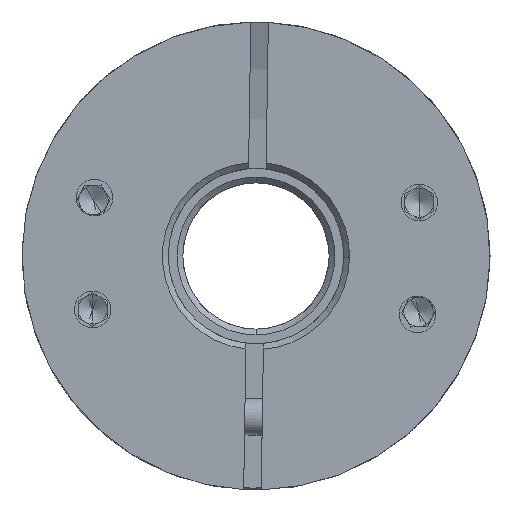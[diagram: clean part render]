
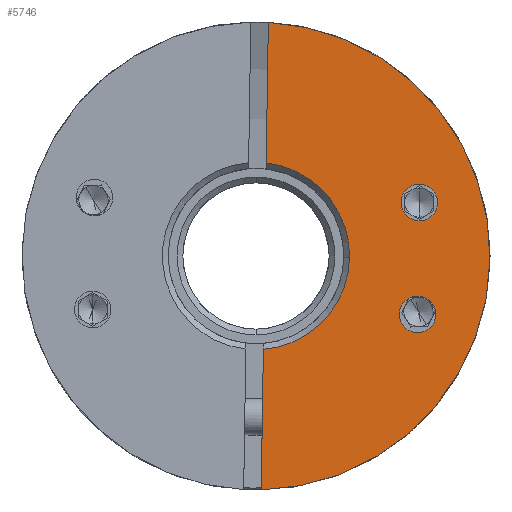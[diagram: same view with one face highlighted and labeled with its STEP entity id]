
A CAD part, front view. The second image highlights one B-rep face of the part: STEP entity #5746.
In plain terms, the highlighted planar face has unit normal (0, -1, 0).
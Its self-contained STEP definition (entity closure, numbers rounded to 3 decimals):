
#31 = EDGE_CURVE ( 'NONE', #18398, #2934, #4516, .T. ) ;
#723 = DIRECTION ( 'NONE',  ( 1., 0., -0.015 ) ) ;
#819 = EDGE_CURVE ( 'NONE', #19744, #4380, #8533, .T. ) ;
#934 = DIRECTION ( 'NONE',  ( 1., 0., -0.015 ) ) ;
#1129 = ORIENTED_EDGE ( 'NONE', *, *, #3431, .T. ) ;
#1280 = CARTESIAN_POINT ( 'NONE',  ( -59.178, -19.411, 0. ) ) ;
#1995 = FACE_BOUND ( 'NONE', #17380, .T. ) ;
#2131 = DIRECTION ( 'NONE',  ( 0., 1., 0. ) ) ;
#2200 = CARTESIAN_POINT ( 'NONE',  ( -43.18, -19.411, -0.243 ) ) ;
#2377 = CARTESIAN_POINT ( 'NONE',  ( -46.762, -19.411, 3.637 ) ) ;
#2399 = EDGE_LOOP ( 'NONE', ( #1129, #16975, #15351, #14023, #6088, #11792 ) ) ;
#2543 = CARTESIAN_POINT ( 'NONE',  ( -48.128, -19.411, -3.994 ) ) ;
#2934 = VERTEX_POINT ( 'NONE', #13771 ) ;
#2965 = DIRECTION ( 'NONE',  ( 1., 0., -0.015 ) ) ;
#3126 = CARTESIAN_POINT ( 'NONE',  ( -59.178, -19.411, 0. ) ) ;
#3431 = EDGE_CURVE ( 'NONE', #11120, #18398, #15787, .T. ) ;
#3842 = DIRECTION ( 'NONE',  ( 1., 0., -0.015 ) ) ;
#4375 = DIRECTION ( 'NONE',  ( 0., -1., 0. ) ) ;
#4380 = VERTEX_POINT ( 'NONE', #7665 ) ;
#4516 = CIRCLE ( 'NONE', #5546, 6.4 ) ;
#4995 = DIRECTION ( 'NONE',  ( 1., 0., -0.015 ) ) ;
#5034 = CARTESIAN_POINT ( 'NONE',  ( -58.482, -19.411, 6.362 ) ) ;
#5131 = DIRECTION ( 'NONE',  ( 1., 0., -0.015 ) ) ;
#5546 = AXIS2_PLACEMENT_3D ( 'NONE', #3126, #10737, #2965 ) ;
#5746 = ADVANCED_FACE ( 'NONE', ( #16859, #20721, #1995 ), #23010, .T. ) ;
#5804 = CIRCLE ( 'NONE', #22711, 1.25 ) ;
#5907 = EDGE_CURVE ( 'NONE', #23186, #14036, #6918, .T. ) ;
#5987 = ORIENTED_EDGE ( 'NONE', *, *, #16911, .T. ) ;
#6088 = ORIENTED_EDGE ( 'NONE', *, *, #5907, .T. ) ;
#6110 = ORIENTED_EDGE ( 'NONE', *, *, #21857, .T. ) ;
#6918 = CIRCLE ( 'NONE', #17078, 16. ) ;
#6999 = CIRCLE ( 'NONE', #21441, 16. ) ;
#7069 = CARTESIAN_POINT ( 'NONE',  ( -59.178, -19.411, 0. ) ) ;
#7112 = CARTESIAN_POINT ( 'NONE',  ( -48.012, -19.411, 3.656 ) ) ;
#7301 = VECTOR ( 'NONE', #19910, 1000. ) ;
#7371 = CIRCLE ( 'NONE', #18720, 1.25 ) ;
#7381 = EDGE_CURVE ( 'NONE', #2934, #11343, #7464, .T. ) ;
#7464 = CIRCLE ( 'NONE', #16290, 6.4 ) ;
#7665 = CARTESIAN_POINT ( 'NONE',  ( -46.878, -19.411, -4.013 ) ) ;
#7689 = AXIS2_PLACEMENT_3D ( 'NONE', #14382, #16164, #4995 ) ;
#8533 = CIRCLE ( 'NONE', #11056, 1.25 ) ;
#8649 = CARTESIAN_POINT ( 'NONE',  ( -58.487, -19.411, 5.99 ) ) ;
#8909 = DIRECTION ( 'NONE',  ( 1., 0., -0.015 ) ) ;
#8963 = DIRECTION ( 'NONE',  ( 1., 0., -0.015 ) ) ;
#9239 = VERTEX_POINT ( 'NONE', #17073 ) ;
#10737 = DIRECTION ( 'NONE',  ( 0., 1., 0. ) ) ;
#11056 = AXIS2_PLACEMENT_3D ( 'NONE', #2543, #23072, #723 ) ;
#11120 = VERTEX_POINT ( 'NONE', #12437 ) ;
#11141 = ORIENTED_EDGE ( 'NONE', *, *, #819, .T. ) ;
#11219 = EDGE_LOOP ( 'NONE', ( #5987, #6110 ) ) ;
#11343 = VERTEX_POINT ( 'NONE', #18774 ) ;
#11598 = CARTESIAN_POINT ( 'NONE',  ( -48.012, -19.411, 3.656 ) ) ;
#11692 = EDGE_CURVE ( 'NONE', #4380, #19744, #16189, .T. ) ;
#11792 = ORIENTED_EDGE ( 'NONE', *, *, #15268, .T. ) ;
#11810 = CARTESIAN_POINT ( 'NONE',  ( -59.178, -19.411, 0. ) ) ;
#12437 = CARTESIAN_POINT ( 'NONE',  ( -58.336, -19.411, 15.978 ) ) ;
#12839 = DIRECTION ( 'NONE',  ( 0., 1., 0. ) ) ;
#12848 = VERTEX_POINT ( 'NONE', #2377 ) ;
#13348 = AXIS2_PLACEMENT_3D ( 'NONE', #11810, #4375, #17415 ) ;
#13771 = CARTESIAN_POINT ( 'NONE',  ( -52.779, -19.411, -0.097 ) ) ;
#14023 = ORIENTED_EDGE ( 'NONE', *, *, #23622, .T. ) ;
#14036 = VERTEX_POINT ( 'NONE', #2200 ) ;
#14382 = CARTESIAN_POINT ( 'NONE',  ( -48.128, -19.411, -3.994 ) ) ;
#14572 = DIRECTION ( 'NONE',  ( 0., -1., 0. ) ) ;
#14761 = CARTESIAN_POINT ( 'NONE',  ( -58.821, -19.411, -15.996 ) ) ;
#15268 = EDGE_CURVE ( 'NONE', #14036, #11120, #6999, .T. ) ;
#15351 = ORIENTED_EDGE ( 'NONE', *, *, #7381, .T. ) ;
#15787 = LINE ( 'NONE', #19812, #7301 ) ;
#15903 = DIRECTION ( 'NONE',  ( 0., -1., 0. ) ) ;
#16164 = DIRECTION ( 'NONE',  ( 0., 1., 0. ) ) ;
#16189 = CIRCLE ( 'NONE', #7689, 1.25 ) ;
#16290 = AXIS2_PLACEMENT_3D ( 'NONE', #1280, #22068, #5131 ) ;
#16859 = FACE_OUTER_BOUND ( 'NONE', #2399, .T. ) ;
#16911 = EDGE_CURVE ( 'NONE', #9239, #12848, #5804, .T. ) ;
#16975 = ORIENTED_EDGE ( 'NONE', *, *, #31, .T. ) ;
#17073 = CARTESIAN_POINT ( 'NONE',  ( -49.261, -19.411, 3.675 ) ) ;
#17078 = AXIS2_PLACEMENT_3D ( 'NONE', #7069, #14572, #8909 ) ;
#17380 = EDGE_LOOP ( 'NONE', ( #11141, #21813 ) ) ;
#17415 = DIRECTION ( 'NONE',  ( 1., 0., -0.015 ) ) ;
#17599 = CARTESIAN_POINT ( 'NONE',  ( -59.178, -19.411, 0. ) ) ;
#17863 = LINE ( 'NONE', #8649, #21413 ) ;
#18096 = CARTESIAN_POINT ( 'NONE',  ( -49.378, -19.411, -3.975 ) ) ;
#18398 = VERTEX_POINT ( 'NONE', #5034 ) ;
#18720 = AXIS2_PLACEMENT_3D ( 'NONE', #11598, #2131, #3842 ) ;
#18774 = CARTESIAN_POINT ( 'NONE',  ( -58.675, -19.411, -6.38 ) ) ;
#19744 = VERTEX_POINT ( 'NONE', #18096 ) ;
#19812 = CARTESIAN_POINT ( 'NONE',  ( -58.487, -19.411, 5.99 ) ) ;
#19910 = DIRECTION ( 'NONE',  ( -0.015, 0., -1. ) ) ;
#20721 = FACE_BOUND ( 'NONE', #11219, .T. ) ;
#21413 = VECTOR ( 'NONE', #23618, 1000. ) ;
#21441 = AXIS2_PLACEMENT_3D ( 'NONE', #17599, #15903, #934 ) ;
#21813 = ORIENTED_EDGE ( 'NONE', *, *, #11692, .T. ) ;
#21857 = EDGE_CURVE ( 'NONE', #12848, #9239, #7371, .T. ) ;
#22068 = DIRECTION ( 'NONE',  ( 0., 1., 0. ) ) ;
#22711 = AXIS2_PLACEMENT_3D ( 'NONE', #7112, #12839, #8963 ) ;
#23010 = PLANE ( 'NONE',  #13348 ) ;
#23072 = DIRECTION ( 'NONE',  ( 0., 1., 0. ) ) ;
#23186 = VERTEX_POINT ( 'NONE', #14761 ) ;
#23618 = DIRECTION ( 'NONE',  ( -0.015, 0., -1. ) ) ;
#23622 = EDGE_CURVE ( 'NONE', #11343, #23186, #17863, .T. ) ;
